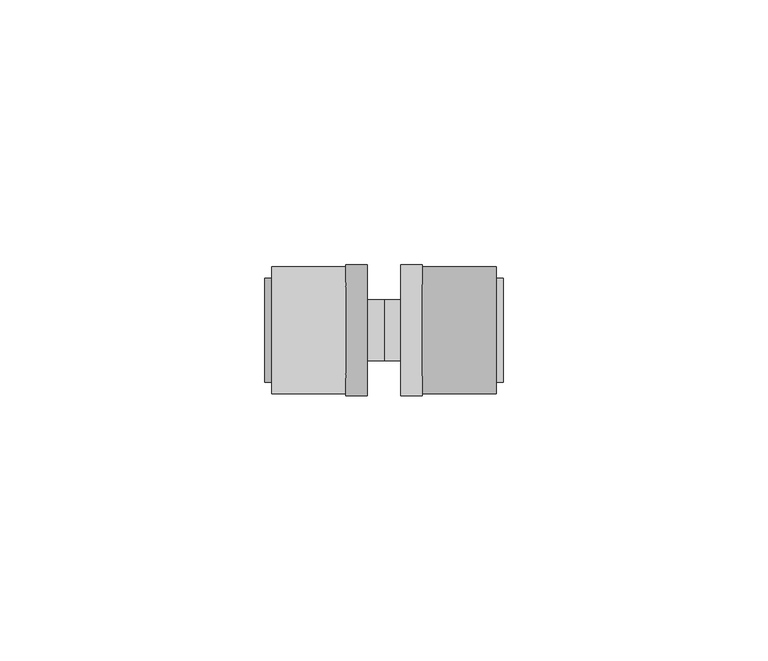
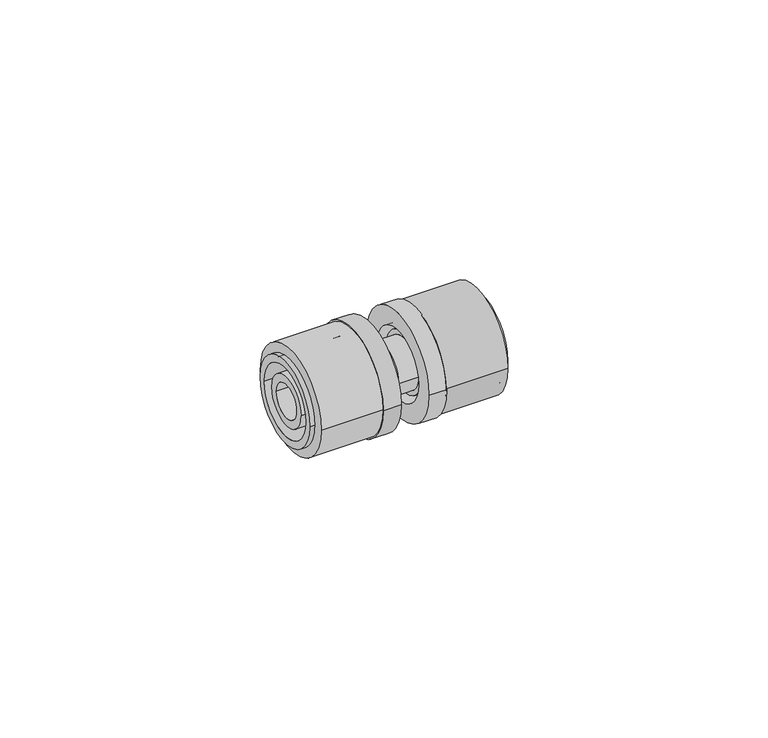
"""IFC4 building model written with IfcOpenShell, lengths in millimetres: pipe fitting geometry, FASTLOC_Coupling equal LX : FSL C LX CZ."""

from ifc_helpers import new_model, si_unit, point, frame, origin, origin_2d, place, context, project, spatial, polyline, circle_curve, trimmed, segment, composite_curve, outline, extrude, source, transform, mapped, element, save
from ifc_brep_helpers import plane_surface, cylinder_surface, revolved_surface, advanced_brep


def pipe_fitting_027be69e(model_context):
    return source(origin(), model_context, "Body", "SolidModel", [
        extrude(outline(composite_curve([segment(trimmed(circle_curve(origin_2d(), 12.0), [point((-12.0, 0.0))], [point((12.0, 0.0))], False, "CARTESIAN"), True, "CONTINUOUS"), segment(trimmed(circle_curve(origin_2d(), 12.0), [point((12.0, 0.0))], [point((-12.0, 0.0))], False, "CARTESIAN"), True, "CONTINUOUS")], self_intersect=False), holes=[composite_curve([segment(trimmed(circle_curve(origin_2d(), 8.85), [point((-8.85, 0.0))], [point((8.85, 0.0))], True, "CARTESIAN"), True, "CONTINUOUS"), segment(trimmed(circle_curve(origin_2d(), 8.85), [point((8.85, 0.0))], [point((-8.85, 0.0))], True, "CARTESIAN"), True, "CONTINUOUS")], self_intersect=False)]), frame((7.2, 0.0, 0.0), z_axis=(1.0, 0.0, 0.0), x_axis=(0.0, 1.0, 0.0)), (0.0, 0.0, 1.0), 14.0),
        advanced_brep(
        [(7.2, 12.35, 0.0), (7.2, -12.35, 0.0), (3.2, -12.35, 0.0), (3.2, 12.35, 0.0), (22.5, 9.85, 0.0), (22.5, -9.85, 0.0), (7.2, -9.85, 0.0), (7.2, 9.85, 0.0), (3.2, 8.15, 0.0), (3.2, -8.15, 0.0), (22.5, -8.15, 0.0), (22.5, 8.15, 0.0)],
        [
            (0, 1, circle_curve(frame((7.2, 0.0, 0.0), z_axis=(-1.0, 0.0, 0.0), x_axis=(0.0, -1.0, 0.0)), 12.35)),
            (1, 2),
            (2, 3, circle_curve(frame((3.2, 0.0, 0.0), z_axis=(1.0, 0.0, 0.0), x_axis=(0.0, -1.0, 0.0)), 12.35)),
            (3, 0),
            (4, 5, circle_curve(frame((22.5, 0.0, 0.0), z_axis=(-1.0, 0.0, 0.0), x_axis=(0.0, -1.0, 0.0)), 9.85)),
            (5, 6),
            (6, 7, circle_curve(frame((7.2, 0.0, 0.0), z_axis=(1.0, 0.0, 0.0), x_axis=(0.0, -1.0, 0.0)), 9.85)),
            (7, 4),
            (8, 9, circle_curve(frame((3.2, 0.0, 0.0), z_axis=(-1.0, 0.0, 0.0), x_axis=(0.0, -1.0, 0.0)), 8.15)),
            (9, 10),
            (10, 11, circle_curve(frame((22.5, 0.0, 0.0), z_axis=(1.0, 0.0, 0.0), x_axis=(0.0, -1.0, 0.0)), 8.15)),
            (11, 8),
            (1, 0, circle_curve(frame((7.2, 0.0, 0.0), z_axis=(-1.0, 0.0, 0.0), x_axis=(0.0, 1.0, 0.0)), 12.35)),
            (3, 2, circle_curve(frame((3.2, 0.0, 0.0), z_axis=(1.0, 0.0, 0.0), x_axis=(0.0, 1.0, 0.0)), 12.35)),
            (6, 7, circle_curve(frame((7.2, 0.0, 0.0), z_axis=(-1.0, 0.0, 0.0), x_axis=(0.0, 1.0, 0.0)), 9.85)),
            (5, 4, circle_curve(frame((22.5, 0.0, 0.0), z_axis=(-1.0, 0.0, 0.0), x_axis=(0.0, 1.0, 0.0)), 9.85)),
            (10, 11, circle_curve(frame((22.5, 0.0, 0.0), z_axis=(-1.0, 0.0, 0.0), x_axis=(0.0, 1.0, 0.0)), 8.15)),
            (9, 8, circle_curve(frame((3.2, 0.0, 0.0), z_axis=(-1.0, 0.0, 0.0), x_axis=(0.0, 1.0, 0.0)), 8.15)),
        ],
        [
            cylinder_surface(frame((3.2, 0.0, 0.0), z_axis=(1.0, 0.0, 0.0), x_axis=(0.0, -1.0, 0.0)), 12.35),
            cylinder_surface(frame((3.2, 0.0, 0.0), z_axis=(1.0, 0.0, 0.0), x_axis=(0.0, -1.0, 0.0)), 9.85),
            revolved_surface(polyline([(22.5, -8.15, 0.0), (3.2, -8.15, 0.0)]), (3.2, 0.0, 0.0), (1.0, 0.0, 0.0)),
            cylinder_surface(frame((3.2, 0.0, 0.0), z_axis=(1.0, 0.0, 0.0), x_axis=(0.0, 1.0, 0.0)), 12.35),
            plane_surface(frame((7.2, 0.0, 0.0), z_axis=(1.0, 0.0, 0.0), x_axis=(0.0, 1.0, 0.0))),
            cylinder_surface(frame((3.2, 0.0, 0.0), z_axis=(1.0, 0.0, 0.0), x_axis=(0.0, 1.0, 0.0)), 9.85),
            plane_surface(frame((22.5, 0.0, 0.0), z_axis=(1.0, 0.0, 0.0), x_axis=(0.0, 1.0, 0.0))),
            revolved_surface(polyline([(22.5, 8.15, 0.0), (3.2, 8.15, 0.0)]), (3.2, 0.0, 0.0), (1.0, 0.0, 0.0)),
            plane_surface(frame((3.2, 0.0, 0.0), z_axis=(-1.0, 0.0, 0.0), x_axis=(0.0, 1.0, 0.0))),
        ],
        [
            (0, [[1, 2, 3, 4]]),
            (1, [[5, 6, 7, 8]]),
            (2, [[9, 10, 11, 12]]),
            (3, [[13, -4, 14, -2]]),
            (4, [[-13, -1], [15, -7]]),
            (5, [[16, -8, -15, -6]]),
            (6, [[-16, -5], [17, -11]]),
            (7, [[18, -12, -17, -10]]),
            (8, [[-14, -3], [-18, -9]]),
        ],
    ),
        extrude(outline(composite_curve([segment(trimmed(circle_curve(origin_2d(), 12.0), [point((12.0, 0.0))], [point((-12.0, 0.0))], False, "CARTESIAN"), True, "CONTINUOUS"), segment(trimmed(circle_curve(origin_2d(), 12.0), [point((-12.0, 0.0))], [point((12.0, 0.0))], False, "CARTESIAN"), True, "CONTINUOUS")], self_intersect=False), holes=[composite_curve([segment(trimmed(circle_curve(origin_2d(), 8.85), [point((8.85, 0.0))], [point((-8.85, 0.0))], True, "CARTESIAN"), True, "CONTINUOUS"), segment(trimmed(circle_curve(origin_2d(), 8.85), [point((-8.85, 0.0))], [point((8.85, 0.0))], True, "CARTESIAN"), True, "CONTINUOUS")], self_intersect=False)]), frame((-21.2, 0.0, 0.0), z_axis=(1.0, 0.0, 0.0), x_axis=(0.0, 1.0, 0.0)), (0.0, 0.0, 1.0), 14.0),
        advanced_brep(
        [(-7.2, -12.35, 0.0), (-7.2, 12.35, 0.0), (-3.2, 12.35, 0.0), (-3.2, -12.35, 0.0), (-22.5, -9.85, 0.0), (-22.5, 9.85, 0.0), (-7.2, 9.85, 0.0), (-7.2, -9.85, 0.0), (-3.2, -8.15, 0.0), (-3.2, 8.15, 0.0), (-22.5, 8.15, 0.0), (-22.5, -8.15, 0.0)],
        [
            (0, 1, circle_curve(frame((-7.2, 0.0, 0.0), z_axis=(1.0, 0.0, 0.0), x_axis=(0.0, 1.0, 0.0)), 12.35)),
            (1, 2),
            (2, 3, circle_curve(frame((-3.2, 0.0, 0.0), z_axis=(-1.0, 0.0, 0.0), x_axis=(0.0, 1.0, 0.0)), 12.35)),
            (3, 0),
            (4, 5, circle_curve(frame((-22.5, 0.0, 0.0), z_axis=(1.0, 0.0, 0.0), x_axis=(0.0, 1.0, 0.0)), 9.85)),
            (5, 6),
            (6, 7, circle_curve(frame((-7.2, 0.0, 0.0), z_axis=(-1.0, 0.0, 0.0), x_axis=(0.0, 1.0, 0.0)), 9.85)),
            (7, 4),
            (8, 9, circle_curve(frame((-3.2, 0.0, 0.0), z_axis=(1.0, 0.0, 0.0), x_axis=(0.0, 1.0, 0.0)), 8.15)),
            (9, 10),
            (10, 11, circle_curve(frame((-22.5, 0.0, 0.0), z_axis=(-1.0, 0.0, 0.0), x_axis=(0.0, 1.0, 0.0)), 8.15)),
            (11, 8),
            (1, 0, circle_curve(frame((-7.2, 0.0, 0.0), z_axis=(1.0, 0.0, 0.0), x_axis=(0.0, -1.0, 0.0)), 12.35)),
            (3, 2, circle_curve(frame((-3.2, 0.0, 0.0), z_axis=(-1.0, 0.0, 0.0), x_axis=(0.0, -1.0, 0.0)), 12.35)),
            (6, 7, circle_curve(frame((-7.2, 0.0, 0.0), z_axis=(1.0, 0.0, 0.0), x_axis=(0.0, -1.0, 0.0)), 9.85)),
            (5, 4, circle_curve(frame((-22.5, 0.0, 0.0), z_axis=(1.0, 0.0, 0.0), x_axis=(0.0, -1.0, 0.0)), 9.85)),
            (10, 11, circle_curve(frame((-22.5, 0.0, 0.0), z_axis=(1.0, 0.0, 0.0), x_axis=(0.0, -1.0, 0.0)), 8.15)),
            (9, 8, circle_curve(frame((-3.2, 0.0, 0.0), z_axis=(1.0, 0.0, 0.0), x_axis=(0.0, -1.0, 0.0)), 8.15)),
        ],
        [
            cylinder_surface(frame((-3.2, 0.0, 0.0), z_axis=(-1.0, 0.0, 0.0), x_axis=(0.0, 1.0, 0.0)), 12.35),
            cylinder_surface(frame((-3.2, 0.0, 0.0), z_axis=(-1.0, 0.0, 0.0), x_axis=(0.0, 1.0, 0.0)), 9.85),
            revolved_surface(polyline([(-22.5, 8.15, 0.0), (-3.2, 8.15, 0.0)]), (-3.2, 0.0, 0.0), (-1.0, 0.0, 0.0)),
            cylinder_surface(frame((-3.2, 0.0, 0.0), z_axis=(-1.0, 0.0, 0.0), x_axis=(0.0, -1.0, 0.0)), 12.35),
            plane_surface(frame((-7.2, 0.0, 0.0), z_axis=(-1.0, 0.0, 0.0), x_axis=(0.0, -1.0, 0.0))),
            cylinder_surface(frame((-3.2, 0.0, 0.0), z_axis=(-1.0, 0.0, 0.0), x_axis=(0.0, -1.0, 0.0)), 9.85),
            plane_surface(frame((-22.5, 0.0, 0.0), z_axis=(-1.0, 0.0, 0.0), x_axis=(0.0, -1.0, 0.0))),
            revolved_surface(polyline([(-22.5, -8.15, 0.0), (-3.2, -8.15, 0.0)]), (-3.2, 0.0, 0.0), (-1.0, 0.0, 0.0)),
            plane_surface(frame((-3.2, 0.0, 0.0), z_axis=(1.0, 0.0, 0.0), x_axis=(0.0, -1.0, 0.0))),
        ],
        [
            (0, [[1, 2, 3, 4]]),
            (1, [[5, 6, 7, 8]]),
            (2, [[9, 10, 11, 12]]),
            (3, [[13, -4, 14, -2]]),
            (4, [[-13, -1], [15, -7]]),
            (5, [[16, -8, -15, -6]]),
            (6, [[-16, -5], [17, -11]]),
            (7, [[18, -12, -17, -10]]),
            (8, [[-14, -3], [-18, -9]]),
        ],
    ),
        advanced_brep(
        [(7.2, 6.9, 0.0), (7.2, -6.9, 0.0), (4.5, -6.9, 0.0), (4.5, 6.9, 0.0), (22.2, 5.8, 0.0), (22.2, -5.8, 0.0), (7.2, -5.8, 0.0), (7.2, 5.8, 0.0), (-22.2, 3.95, 0.0), (-22.2, -3.95, 0.0), (22.2, -3.95, 0.0), (22.2, 3.95, 0.0), (-7.2, 5.8, 0.0), (-7.2, -5.8, 0.0), (-22.2, -5.8, 0.0), (-22.2, 5.8, 0.0), (-4.5, 6.9, 0.0), (-4.5, -6.9, 0.0), (-7.2, -6.9, 0.0), (-7.2, 6.9, 0.0), (0.0, 5.8, 0.0), (0.0, -5.8, 0.0), (-4.5, -5.8, 0.0), (-4.5, 5.8, 0.0), (4.5, 5.8, 0.0), (4.5, -5.8, 0.0)],
        [
            (0, 1, circle_curve(frame((7.2, 0.0, 0.0), z_axis=(-1.0, 0.0, 0.0), x_axis=(0.0, -1.0, 0.0)), 6.9)),
            (1, 2),
            (2, 3, circle_curve(frame((4.5, 0.0, 0.0), z_axis=(1.0, 0.0, 0.0), x_axis=(0.0, -1.0, 0.0)), 6.9)),
            (3, 0),
            (4, 5, circle_curve(frame((22.2, 0.0, 0.0), z_axis=(-1.0, 0.0, 0.0), x_axis=(0.0, -1.0, 0.0)), 5.8)),
            (5, 6),
            (6, 7, circle_curve(frame((7.2, 0.0, 0.0), z_axis=(1.0, 0.0, 0.0), x_axis=(0.0, -1.0, 0.0)), 5.8)),
            (7, 4),
            (8, 9, circle_curve(frame((-22.2, 0.0, 0.0), z_axis=(-1.0, 0.0, 0.0), x_axis=(0.0, -1.0, 0.0)), 3.95)),
            (9, 10),
            (10, 11, circle_curve(frame((22.2, 0.0, 0.0), z_axis=(1.0, 0.0, 0.0), x_axis=(0.0, -1.0, 0.0)), 3.95)),
            (11, 8),
            (12, 13, circle_curve(frame((-7.2, 0.0, 0.0), z_axis=(-1.0, 0.0, 0.0), x_axis=(0.0, -1.0, 0.0)), 5.8)),
            (13, 14),
            (14, 15, circle_curve(frame((-22.2, 0.0, 0.0), z_axis=(1.0, 0.0, 0.0), x_axis=(0.0, -1.0, 0.0)), 5.8)),
            (15, 12),
            (16, 17, circle_curve(frame((-4.5, 0.0, 0.0), z_axis=(-1.0, 0.0, 0.0), x_axis=(0.0, -1.0, 0.0)), 6.9)),
            (17, 18),
            (18, 19, circle_curve(frame((-7.2, 0.0, 0.0), z_axis=(1.0, 0.0, 0.0), x_axis=(0.0, -1.0, 0.0)), 6.9)),
            (19, 16),
            (20, 21, circle_curve(frame((0.0, 0.0, 0.0), z_axis=(-1.0, 0.0, 0.0), x_axis=(0.0, -1.0, 0.0)), 5.8)),
            (21, 22),
            (22, 23, circle_curve(frame((-4.5, 0.0, 0.0), z_axis=(1.0, 0.0, 0.0), x_axis=(0.0, -1.0, 0.0)), 5.8)),
            (23, 20),
            (24, 25, circle_curve(frame((4.5, 0.0, 0.0), z_axis=(-1.0, 0.0, 0.0), x_axis=(0.0, -1.0, 0.0)), 5.8)),
            (25, 21),
            (20, 24),
            (1, 0, circle_curve(frame((7.2, 0.0, 0.0), z_axis=(-1.0, 0.0, 0.0), x_axis=(0.0, 1.0, 0.0)), 6.9)),
            (3, 2, circle_curve(frame((4.5, 0.0, 0.0), z_axis=(1.0, 0.0, 0.0), x_axis=(0.0, 1.0, 0.0)), 6.9)),
            (6, 7, circle_curve(frame((7.2, 0.0, 0.0), z_axis=(-1.0, 0.0, 0.0), x_axis=(0.0, 1.0, 0.0)), 5.8)),
            (5, 4, circle_curve(frame((22.2, 0.0, 0.0), z_axis=(-1.0, 0.0, 0.0), x_axis=(0.0, 1.0, 0.0)), 5.8)),
            (10, 11, circle_curve(frame((22.2, 0.0, 0.0), z_axis=(-1.0, 0.0, 0.0), x_axis=(0.0, 1.0, 0.0)), 3.95)),
            (9, 8, circle_curve(frame((-22.2, 0.0, 0.0), z_axis=(-1.0, 0.0, 0.0), x_axis=(0.0, 1.0, 0.0)), 3.95)),
            (14, 15, circle_curve(frame((-22.2, 0.0, 0.0), z_axis=(-1.0, 0.0, 0.0), x_axis=(0.0, 1.0, 0.0)), 5.8)),
            (13, 12, circle_curve(frame((-7.2, 0.0, 0.0), z_axis=(-1.0, 0.0, 0.0), x_axis=(0.0, 1.0, 0.0)), 5.8)),
            (18, 19, circle_curve(frame((-7.2, 0.0, 0.0), z_axis=(-1.0, 0.0, 0.0), x_axis=(0.0, 1.0, 0.0)), 6.9)),
            (17, 16, circle_curve(frame((-4.5, 0.0, 0.0), z_axis=(-1.0, 0.0, 0.0), x_axis=(0.0, 1.0, 0.0)), 6.9)),
            (22, 23, circle_curve(frame((-4.5, 0.0, 0.0), z_axis=(-1.0, 0.0, 0.0), x_axis=(0.0, 1.0, 0.0)), 5.8)),
            (21, 20, circle_curve(frame((0.0, 0.0, 0.0), z_axis=(-1.0, 0.0, 0.0), x_axis=(0.0, 1.0, 0.0)), 5.8)),
            (25, 24, circle_curve(frame((4.5, 0.0, 0.0), z_axis=(-1.0, 0.0, 0.0), x_axis=(0.0, 1.0, 0.0)), 5.8)),
        ],
        [
            cylinder_surface(frame((0.0, 0.0, 0.0), z_axis=(1.0, 0.0, 0.0), x_axis=(0.0, -1.0, 0.0)), 6.9),
            cylinder_surface(frame((0.0, 0.0, 0.0), z_axis=(1.0, 0.0, 0.0), x_axis=(0.0, -1.0, 0.0)), 5.8),
            revolved_surface(polyline([(22.2, -3.95, 0.0), (-22.2, -3.95, 0.0)]), (0.0, 0.0, 0.0), (1.0, 0.0, 0.0)),
            cylinder_surface(frame((0.0, 0.0, 0.0), z_axis=(1.0, 0.0, 0.0), x_axis=(0.0, 1.0, 0.0)), 6.9),
            plane_surface(frame((7.2, 0.0, 0.0), z_axis=(1.0, 0.0, 0.0), x_axis=(0.0, 1.0, 0.0))),
            cylinder_surface(frame((0.0, 0.0, 0.0), z_axis=(1.0, 0.0, 0.0), x_axis=(0.0, 1.0, 0.0)), 5.8),
            plane_surface(frame((22.2, 0.0, 0.0), z_axis=(1.0, 0.0, 0.0), x_axis=(0.0, 1.0, 0.0))),
            revolved_surface(polyline([(22.2, 3.95, 0.0), (-22.2, 3.95, 0.0)]), (0.0, 0.0, 0.0), (1.0, 0.0, 0.0)),
            plane_surface(frame((-22.2, 0.0, 0.0), z_axis=(-1.0, 0.0, 0.0), x_axis=(0.0, 1.0, 0.0))),
            plane_surface(frame((-7.2, 0.0, 0.0), z_axis=(-1.0, 0.0, 0.0), x_axis=(0.0, 1.0, 0.0))),
            plane_surface(frame((-4.5, 0.0, 0.0), z_axis=(1.0, 0.0, 0.0), x_axis=(0.0, 1.0, 0.0))),
            plane_surface(frame((4.5, 0.0, 0.0), z_axis=(-1.0, 0.0, 0.0), x_axis=(0.0, 1.0, 0.0))),
        ],
        [
            (0, [[1, 2, 3, 4]]),
            (1, [[5, 6, 7, 8]]),
            (2, [[9, 10, 11, 12]]),
            (1, [[13, 14, 15, 16]]),
            (0, [[17, 18, 19, 20]]),
            (1, [[21, 22, 23, 24]]),
            (1, [[25, 26, -21, 27]]),
            (3, [[28, -4, 29, -2]]),
            (4, [[-28, -1], [30, -7]]),
            (5, [[31, -8, -30, -6]]),
            (6, [[-31, -5], [32, -11]]),
            (7, [[33, -12, -32, -10]]),
            (8, [[34, -15], [-33, -9]]),
            (5, [[35, -16, -34, -14]]),
            (9, [[36, -19], [-35, -13]]),
            (3, [[37, -20, -36, -18]]),
            (10, [[-37, -17], [38, -23]]),
            (5, [[39, -24, -38, -22]]),
            (5, [[40, -27, -39, -26]]),
            (11, [[-29, -3], [-40, -25]]),
        ],
    ),
    ])


if __name__ == "__main__":
    model = new_model("IFC4")
    model_context = context("Model", 3, world=origin())
    ifc_project = project(units=[si_unit("LENGTHUNIT", "METRE", prefix="MILLI")], contexts=[model_context])
    site = spatial("IfcSite", under=ifc_project)
    building = spatial("IfcBuilding", under=site)
    placement = place(None, origin())
    pipe_fitting_shape = pipe_fitting_027be69e(model_context)
    element("IfcPipeFitting", 1, ObjectType="FASTLOC_Coupling equal LX : FSL C LX CZ", at=placement, inside=building, context=model_context, shape_type="MappedRepresentation", body=[
        mapped(pipe_fitting_shape, transform((0.0, 0.0, 0.0), x_axis=(1.0, 0.0, 0.0), y_axis=(0.0, 1.0, 0.0), z_axis=(0.0, 0.0, 1.0))),
    ])
    save(model, "model.ifc")
